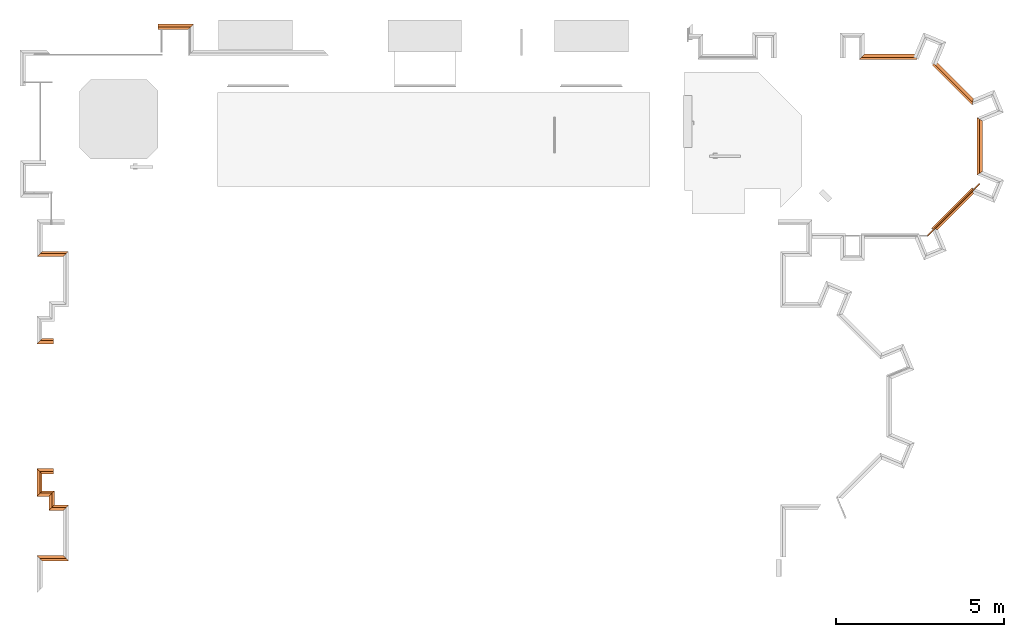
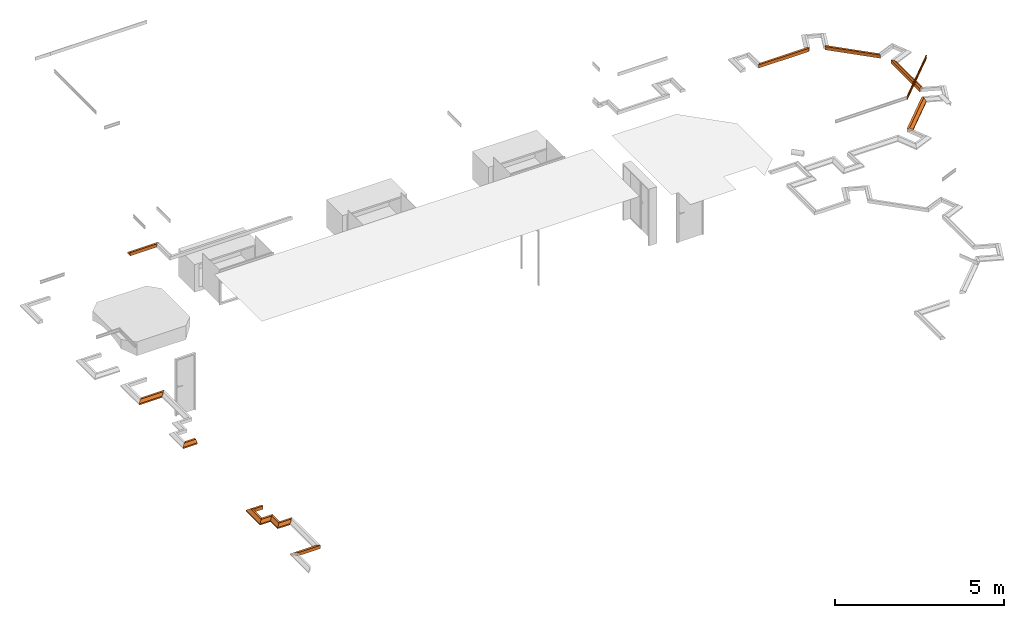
# One storey, part 7 of 9: 14 proxies.
"""IFC2X3 building model written with IfcOpenShell, lengths in metres."""

from ifc_helpers import new_model, entity, si_unit, converted_unit, derived_unit, direction, frame, origin, place, context, subcontext, project, spatial, faceted_brep, type_object, element, save


model = new_model("IFC2X3")

# Units and contexts
model_context = context("Model", 3, precision=1e-05, world=origin(), true_north=direction((6.12303176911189e-17, 1.0)))
plan_context = context("Plan", 3, precision=1e-05, world=origin(), true_north=direction((6.12303176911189e-17, 1.0)))
body_context = subcontext(model_context, "Body", "Model", "MODEL_VIEW")
ifc_project = project(units=[si_unit("LENGTHUNIT", "METRE"), si_unit("AREAUNIT", "SQUARE_METRE"), si_unit("VOLUMEUNIT", "CUBIC_METRE"), converted_unit("PLANEANGLEUNIT", "DEGREE", entity("IfcRatioMeasure", 0.0174532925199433), si_unit("PLANEANGLEUNIT", "RADIAN"), dimensions=[0, 0, 0, 0, 0, 0, 0]), si_unit("MASSUNIT", "GRAM", prefix="KILO"), derived_unit("MASSDENSITYUNIT", [(si_unit("MASSUNIT", "GRAM", prefix="KILO"), 1), (si_unit("LENGTHUNIT", "METRE"), -3)]), derived_unit("MOMENTOFINERTIAUNIT", [(si_unit("LENGTHUNIT", "METRE"), 4)]), si_unit("TIMEUNIT", "SECOND"), si_unit("FREQUENCYUNIT", "HERTZ"), si_unit("THERMODYNAMICTEMPERATUREUNIT", "DEGREE_CELSIUS"), derived_unit("THERMALTRANSMITTANCEUNIT", [(si_unit("MASSUNIT", "GRAM", prefix="KILO"), 1), (si_unit("THERMODYNAMICTEMPERATUREUNIT", "KELVIN"), -1), (si_unit("TIMEUNIT", "SECOND"), -3)]), derived_unit("VOLUMETRICFLOWRATEUNIT", [(si_unit("LENGTHUNIT", "METRE"), 3), (si_unit("TIMEUNIT", "SECOND"), -1)]), derived_unit("MASSFLOWRATEUNIT", [(si_unit("MASSUNIT", "GRAM", prefix="KILO"), 1), (si_unit("TIMEUNIT", "SECOND"), -1)]), derived_unit("ROTATIONALFREQUENCYUNIT", [(si_unit("TIMEUNIT", "SECOND"), -1)]), si_unit("ELECTRICCURRENTUNIT", "AMPERE"), si_unit("ELECTRICVOLTAGEUNIT", "VOLT"), si_unit("POWERUNIT", "WATT"), si_unit("FORCEUNIT", "NEWTON", prefix="KILO"), si_unit("ILLUMINANCEUNIT", "LUX"), si_unit("LUMINOUSFLUXUNIT", "LUMEN"), si_unit("LUMINOUSINTENSITYUNIT", "CANDELA"), derived_unit("USERDEFINED", [(si_unit("MASSUNIT", "GRAM", prefix="KILO"), -1), (si_unit("LENGTHUNIT", "METRE"), -2), (si_unit("TIMEUNIT", "SECOND"), 3), (si_unit("LUMINOUSFLUXUNIT", "LUMEN"), 1)]), derived_unit("SOUNDPOWERUNIT", [(si_unit("MASSUNIT", "GRAM", prefix="KILO"), 1), (si_unit("LENGTHUNIT", "METRE"), 2), (si_unit("TIMEUNIT", "SECOND"), -3)]), derived_unit("SOUNDPRESSUREUNIT", [(si_unit("MASSUNIT", "GRAM", prefix="KILO"), 1), (si_unit("LENGTHUNIT", "METRE"), -1), (si_unit("TIMEUNIT", "SECOND"), -2)]), derived_unit("LINEARVELOCITYUNIT", [(si_unit("LENGTHUNIT", "METRE"), 1), (si_unit("TIMEUNIT", "SECOND"), -1)]), si_unit("PRESSUREUNIT", "PASCAL"), derived_unit("USERDEFINED", [(si_unit("LENGTHUNIT", "METRE"), -2), (si_unit("MASSUNIT", "GRAM", prefix="KILO"), 1), (si_unit("TIMEUNIT", "SECOND"), -2)]), derived_unit("LINEARFORCEUNIT", [(si_unit("MASSUNIT", "GRAM", prefix="KILO"), 1), (si_unit("LENGTHUNIT", "METRE"), 1), (si_unit("TIMEUNIT", "SECOND"), -2), (si_unit("LENGTHUNIT", "METRE"), -1)]), derived_unit("PLANARFORCEUNIT", [(si_unit("MASSUNIT", "GRAM", prefix="KILO"), 1), (si_unit("LENGTHUNIT", "METRE"), 1), (si_unit("TIMEUNIT", "SECOND"), -2), (si_unit("LENGTHUNIT", "METRE"), -2)])], contexts=[model_context, plan_context])

# Site, building, storey
site_placement = place(None, frame((-11.0823275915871, 23.8300534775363, 0.0)))
site = spatial("IfcSite", under=ifc_project, at=site_placement, Name="Default", CompositionType="ELEMENT")
building_placement = place(site_placement, origin())
building = spatial("IfcBuilding", under=site, at=building_placement, Name="Englische Kirche", CompositionType="ELEMENT")
storey_placement = place(building_placement, frame((0.0, 0.0, -3.07499999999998)))
storey = spatial("IfcBuildingStorey", under=building, at=storey_placement, Name="Ebene -1 Basement Phase 6", CompositionType="ELEMENT", Elevation=-3.07499999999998)

# Proxies
building_element_proxy_type_1 = type_object("IfcBuildingElementProxyType", Name="Profilierte Wand:plinth", PredefinedType="NOTDEFINED")
proxy_1_placement = place(storey_placement, frame((-1.4367241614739, 9.31104921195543, 2.97999999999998)))
element("IfcBuildingElementProxy", 1, at=proxy_1_placement, inside=storey, type_object=building_element_proxy_type_1, Name="Profilierte Wand:plinth", ObjectType="Profilierte Wand:plinth", context=body_context, shape_type="Brep", body=[
    faceted_brep([(0.942669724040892, 0.16266972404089, 0.12), (0.872897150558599, 0.0928971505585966, 0.12), (0.780000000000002, 0.0, 0.0450000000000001), (0.780000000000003, 0.0, 0.0), (0.942669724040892, 0.16266972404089, 0.0), (0.16266972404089, 0.16266972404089, 0.12), (0.162669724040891, 0.162669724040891, 0.0), (0.0, 0.0, 0.0), (0.0, 0.0, 0.0450000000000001), (0.092897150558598, 0.0928971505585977, 0.12)], [[[0, 1, 2, 3, 4]], [[5, 6, 7, 8, 9]], [[0, 4, 6, 5]], [[4, 3, 7, 6]], [[3, 2, 8, 7]], [[2, 1, 9, 8]], [[1, 0, 5, 9]]]),
])
building_element_proxy_type_2 = type_object("IfcBuildingElementProxyType", Name="Profilierte Wand:plinth", PredefinedType="NOTDEFINED")
proxy_2_placement = place(storey_placement, frame((-1.44172416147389, 6.71181126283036, 2.97999999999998)))
element("IfcBuildingElementProxy", 2, at=proxy_2_placement, inside=storey, type_object=building_element_proxy_type_2, Name="Profilierte Wand:plinth", ObjectType="Profilierte Wand:plinth", context=body_context, shape_type="Brep", body=[
    faceted_brep([(0.162669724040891, 0.162669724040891, 0.12), (0.162669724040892, 0.162669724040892, 0.0), (0.0, 0.0, 0.0), (0.0, 0.0, 0.0450000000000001), (0.092897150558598, 0.0928971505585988, 0.12), (0.494123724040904, 0.16266972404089, 0.12), (0.494123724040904, 0.0928971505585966, 0.12), (0.494123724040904, 0.0, 0.0450000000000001), (0.494123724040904, 0.0, 0.0), (0.494123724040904, 0.16266972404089, 0.0)], [[[0, 1, 2, 3, 4]], [[5, 6, 7, 8, 9]], [[1, 0, 5, 9]], [[2, 1, 9, 8]], [[3, 2, 8, 7]], [[4, 3, 7, 6]], [[0, 4, 6, 5]]]),
])
building_element_proxy_type_3 = type_object("IfcBuildingElementProxyType", Name="Profilierte Wand:plinth", PredefinedType="NOTDEFINED")
proxy_3_placement = place(storey_placement, frame((-1.4367241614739, 0.23448098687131, 2.97999999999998)))
element("IfcBuildingElementProxy", 3, at=proxy_3_placement, inside=storey, type_object=building_element_proxy_type_3, Name="Profilierte Wand:plinth", ObjectType="Profilierte Wand:plinth", context=body_context, shape_type="Brep", body=[
    faceted_brep([(0.16266972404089, 0.0, 0.12), (0.0928971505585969, 0.0697725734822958, 0.119999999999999), (0.0, 0.162669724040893, 0.0449999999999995), (0.0, 0.162669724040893, 0.0), (0.16266972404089, 0.0, 0.0), (0.942669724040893, 0.0, 0.12), (0.942669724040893, 0.0, 0.0), (0.780000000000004, 0.162669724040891, 0.0), (0.780000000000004, 0.162669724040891, 0.0449999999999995), (0.872897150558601, 0.0697725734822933, 0.119999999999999)], [[[0, 1, 2, 3, 4]], [[5, 6, 7, 8, 9]], [[1, 0, 5, 9]], [[2, 1, 9, 8]], [[3, 2, 8, 7]], [[4, 3, 7, 6]], [[0, 4, 6, 5]]]),
])
building_element_proxy_type_4 = type_object("IfcBuildingElementProxyType", Name="Profilierte Wand:plinth", PredefinedType="NOTDEFINED")
proxy_4_placement = place(storey_placement, frame((-1.0817241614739, 1.74181126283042, 2.97999999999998)))
element("IfcBuildingElementProxy", 4, at=proxy_4_placement, inside=storey, type_object=building_element_proxy_type_4, Name="Profilierte Wand:plinth", ObjectType="Profilierte Wand:plinth", context=body_context, shape_type="Brep", body=[
    faceted_brep([(0.587669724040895, 0.162669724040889, 0.12), (0.517897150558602, 0.0928971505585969, 0.119999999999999), (0.425000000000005, 0.0, 0.0449999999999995), (0.425000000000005, 0.0, 0.0), (0.587669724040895, 0.16266972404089, 0.0), (0.16266972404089, 0.162669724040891, 0.12), (0.162669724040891, 0.162669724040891, 0.0), (0.0, 0.0, 0.0), (0.0, 0.0, 0.0449999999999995), (0.0928971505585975, 0.0928971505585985, 0.119999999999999)], [[[0, 1, 2, 3, 4]], [[5, 6, 7, 8, 9]], [[1, 0, 5, 9]], [[2, 1, 9, 8]], [[3, 2, 8, 7]], [[4, 3, 7, 6]], [[0, 4, 6, 5]]]),
])
building_element_proxy_type_5 = type_object("IfcBuildingElementProxyType", Name="Profilierte Wand:plinth", PredefinedType="NOTDEFINED")
proxy_5_placement = place(storey_placement, frame((-1.0817241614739, 1.74181126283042, 2.97999999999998)))
element("IfcBuildingElementProxy", 5, at=proxy_5_placement, inside=storey, type_object=building_element_proxy_type_5, Name="Profilierte Wand:plinth", ObjectType="Profilierte Wand:plinth", context=body_context, shape_type="Brep", body=[
    faceted_brep([(0.162669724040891, 0.16266972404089, 0.12), (0.0928971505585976, 0.0928971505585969, 0.12), (0.0, 0.0, 0.0450000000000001), (0.0, 0.0, 0.0), (0.162669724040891, 0.16266972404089, 0.0), (0.162669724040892, 0.58666972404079, 0.12), (0.162669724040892, 0.58666972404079, 0.0), (0.0, 0.423999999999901, 0.0), (0.0, 0.423999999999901, 0.0450000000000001), (0.0928971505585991, 0.516897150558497, 0.12)], [[[0, 1, 2, 3, 4]], [[5, 6, 7, 8, 9]], [[1, 0, 5, 9]], [[2, 1, 9, 8]], [[3, 2, 8, 7]], [[4, 3, 7, 6]], [[0, 4, 6, 5]]]),
])
building_element_proxy_type_6 = type_object("IfcBuildingElementProxyType", Name="Profilierte Wand:plinth", PredefinedType="NOTDEFINED")
proxy_6_placement = place(storey_placement, frame((-1.4417241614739, 2.16581126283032, 2.97999999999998)))
element("IfcBuildingElementProxy", 6, at=proxy_6_placement, inside=storey, type_object=building_element_proxy_type_6, Name="Profilierte Wand:plinth", ObjectType="Profilierte Wand:plinth", context=body_context, shape_type="Brep", body=[
    faceted_brep([(0.522669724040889, 0.16266972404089, 0.12), (0.452897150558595, 0.0928971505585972, 0.12), (0.359999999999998, 0.0, 0.0450000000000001), (0.359999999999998, 0.0, 0.0), (0.522669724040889, 0.16266972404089, 0.0), (0.16266972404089, 0.162669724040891, 0.12), (0.16266972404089, 0.162669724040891, 0.0), (0.0, 0.0, 0.0), (0.0, 0.0, 0.0450000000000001), (0.0928971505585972, 0.0928971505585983, 0.12)], [[[0, 1, 2, 3, 4]], [[5, 6, 7, 8, 9]], [[1, 0, 5, 9]], [[2, 1, 9, 8]], [[3, 2, 8, 7]], [[4, 3, 7, 6]], [[0, 4, 6, 5]]]),
])
building_element_proxy_type_7 = type_object("IfcBuildingElementProxyType", Name="Profilierte Wand:plinth brick header", PredefinedType="NOTDEFINED")
proxy_7_placement = place(storey_placement, frame((26.6062268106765, 11.7491854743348, 2.97999999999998)))
element("IfcBuildingElementProxy", 7, at=proxy_7_placement, inside=storey, type_object=building_element_proxy_type_7, Name="Profilierte Wand:plinth brick header", ObjectType="Profilierte Wand:plinth brick header", context=body_context, shape_type="Brep", body=[
    faceted_brep([(0.0, 0.0, 0.12), (0.0, 0.0, 0.0), (0.16266972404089, 0.108692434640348, 0.0), (0.162669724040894, 0.10869243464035, 0.0450000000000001), (0.0697725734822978, 0.0466205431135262, 0.12), (0.0, 1.71117236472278, 0.12), (0.0697725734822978, 1.66455182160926, 0.12), (0.162669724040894, 1.60247993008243, 0.0450000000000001), (0.162669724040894, 1.60247993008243, 0.0), (0.0, 1.71117236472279, 0.0)], [[[0, 1, 2, 3, 4]], [[5, 6, 7, 8, 9]], [[1, 0, 5, 9]], [[2, 1, 9, 8]], [[3, 2, 8, 7]], [[4, 3, 7, 6]], [[0, 4, 6, 5]]]),
])
building_element_proxy_type_8 = type_object("IfcBuildingElementProxyType", Name="Profilierte Wand:plinth brick header", PredefinedType="NOTDEFINED")
proxy_8_placement = place(storey_placement, frame((25.2614451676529, 13.8327152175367, 2.97999999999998)))
element("IfcBuildingElementProxy", 8, at=proxy_8_placement, inside=storey, type_object=building_element_proxy_type_8, Name="Profilierte Wand:plinth brick header", ObjectType="Profilierte Wand:plinth brick header", context=body_context, shape_type="Brep", body=[
    faceted_brep([(1.19595812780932, 0.0, 0.12), (1.19595812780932, 0.0, 0.0), (1.23412583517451, 0.191882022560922, 0.0), (1.23412583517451, 0.191882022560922, 0.0450000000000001), (1.21232908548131, 0.0823023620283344, 0.12), (0.0, 1.19595812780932, 0.12), (0.0493366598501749, 1.24529478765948, 0.12), (0.115024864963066, 1.31098299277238, 0.0450000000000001), (0.115024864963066, 1.31098299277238, 0.0), (0.0, 1.19595812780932, 0.0)], [[[0, 1, 2, 3, 4]], [[5, 6, 7, 8, 9]], [[1, 0, 5, 9]], [[2, 1, 9, 8]], [[3, 2, 8, 7]], [[4, 3, 7, 6]], [[0, 4, 6, 5]]]),
])
building_element_proxy_type_9 = type_object("IfcBuildingElementProxyType", Name="Profilierte Wand:moulding1-Dado brick Stage 2", PredefinedType="NOTDEFINED")
proxy_9_placement = place(storey_placement, frame((25.1192439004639, 9.91654569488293, 4.32499999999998)))
element("IfcBuildingElementProxy", 9, at=proxy_9_placement, inside=storey, type_object=building_element_proxy_type_9, Name="Profilierte Wand:moulding1-Dado brick Stage 2", ObjectType="Profilierte Wand:moulding1-Dado brick Stage 2", context=body_context, shape_type="Brep", body=[
    faceted_brep([(0.0134644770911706, 0.0040256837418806, 0.113282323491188), (0.0124709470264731, 0.00642427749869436, 0.11608322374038), (0.0112243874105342, 0.00943373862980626, 0.11821428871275), (0.00980013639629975, 0.0128721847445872, 0.119546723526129), (0.00828427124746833, 0.0165318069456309, 0.12), (0.0, 0.0365318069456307, 0.12), (0.0, 0.0365318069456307, 0.0), (0.0124264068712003, 0.006531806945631, 0.0), (0.0124264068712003, 0.006531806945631, 0.0249999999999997), (0.00621320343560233, 0.0215318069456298, 0.0249999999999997), (0.00789670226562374, 0.0174674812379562, 0.0900292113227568), (0.00942132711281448, 0.0137867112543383, 0.0902533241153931), (0.0108772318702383, 0.0102718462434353, 0.0913686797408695), (0.0121764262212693, 0.00713531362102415, 0.0933078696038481), (0.0132403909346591, 0.00456667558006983, 0.0959536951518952), (0.0140048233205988, 0.00272117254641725, 0.0991462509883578), (0.0144235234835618, 0.00171034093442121, 0.102692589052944), (0.0144711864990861, 0.0015952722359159, 0.106378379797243), (0.0141449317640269, 0.00238292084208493, 0.109980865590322), (1.5777935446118, 1.56650989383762, 0.0991462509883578), (1.57594804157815, 1.56727432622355, 0.0959536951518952), (1.57337940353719, 1.56833829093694, 0.0933078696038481), (1.57024287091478, 1.56963748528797, 0.0913686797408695), (1.56672800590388, 1.5710933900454, 0.0902533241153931), (1.56304723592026, 1.57261801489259, 0.0900292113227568), (1.55898291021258, 1.57430151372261, 0.0249999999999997), (1.57398291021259, 1.56808831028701, 0.0249999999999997), (1.57398291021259, 1.56808831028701, 0.0), (1.54398291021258, 1.58051471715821, 0.0), (1.54398291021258, 1.58051471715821, 0.12), (1.56398291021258, 1.57223044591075, 0.12), (1.56764253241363, 1.57071458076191, 0.119546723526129), (1.57108097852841, 1.56929032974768, 0.11821428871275), (1.57409043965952, 1.56804377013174, 0.11608322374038), (1.57648903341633, 1.56705024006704, 0.113282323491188), (1.57813179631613, 1.56636978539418, 0.109980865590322), (1.5789194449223, 1.56604353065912, 0.106378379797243), (1.57880437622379, 1.56609119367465, 0.102692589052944), (1.3717990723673, 1.38136985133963, 0.0900292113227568), (1.18055010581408, 1.19012088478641, 0.0900292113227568), (1.07863491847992, 1.08820569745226, 0.0900292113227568), (0.976720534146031, 0.986291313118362, 0.0900292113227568), (0.874806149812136, 0.884376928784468, 0.0900292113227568), (0.772890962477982, 0.782461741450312, 0.0900292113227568), (0.581641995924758, 0.59121277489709, 0.0900292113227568), (0.390393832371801, 0.399964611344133, 0.0900292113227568), (0.199145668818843, 0.208716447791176, 0.0900292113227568), (1.43465090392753, 1.42765812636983, 0.0945660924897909), (1.39540999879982, 1.3959481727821, 0.118974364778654), (0.126430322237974, 0.130974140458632, 0.119769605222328), (1.45683522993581, 1.44467942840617, 0.100894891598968), (1.3945012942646, 1.39628623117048, 0.0907130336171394), (1.44860199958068, 1.45445524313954, 0.0900958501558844), (1.43697187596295, 1.4240164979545, 0.104532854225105), (0.680679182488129, 0.683424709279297, 0.0905133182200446), (0.132952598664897, 0.130018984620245, 0.0922528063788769), (0.311789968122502, 0.308818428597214, 0.0922694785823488), (0.152856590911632, 0.145863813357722, 0.0945660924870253), (0.184228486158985, 0.18601342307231, 0.0907130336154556), (0.559695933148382, 0.551953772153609, 0.114857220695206), (0.677150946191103, 0.673281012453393, 0.117311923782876), (0.493399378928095, 0.490567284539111, 0.117791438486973), (1.4352888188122, 1.42740651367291, 0.114742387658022), (1.45128650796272, 1.44725116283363, 0.117229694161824), (0.450289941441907, 0.439520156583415, 0.111646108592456), (0.472407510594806, 0.460212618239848, 0.109006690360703), (0.627561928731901, 0.616464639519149, 0.111155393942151), (1.48189819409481, 1.47177325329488, 0.0975015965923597), (1.45706439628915, 1.44458665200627, 0.108198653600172), (0.126059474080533, 0.131912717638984, 0.0900958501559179), (1.1199482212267, 1.10814400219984, 0.100104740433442), (0.963695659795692, 0.953176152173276, 0.0980072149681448), (1.1405449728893, 1.13039500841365, 0.0975323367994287), (0.242585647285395, 0.248047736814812, 0.0901298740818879), (1.33246698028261, 1.33792906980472, 0.0901298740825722), (0.301549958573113, 0.294271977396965, 0.0947784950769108), (0.22639706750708, 0.21626349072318, 0.097512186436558), (1.08906428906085, 1.08737800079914, 0.0917463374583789), (0.968310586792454, 0.971261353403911, 0.0904751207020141), (1.09293972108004, 1.09561183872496, 0.0905273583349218), (1.2725126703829, 1.26844242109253, 0.117212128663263), (1.31174659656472, 1.2992943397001, 0.108280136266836), (0.135835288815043, 0.123679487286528, 0.100894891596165), (0.281132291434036, 0.269008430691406, 0.100816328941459), (0.156498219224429, 0.143542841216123, 0.104532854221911), (0.897992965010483, 0.899480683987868, 0.119218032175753), (0.990240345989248, 0.998487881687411, 0.12), (0.798989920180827, 0.807237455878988, 0.12), (1.48234256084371, 1.47159260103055, 0.111674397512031), (0.395635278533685, 0.382863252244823, 0.107022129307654), (0.441266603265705, 0.428312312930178, 0.104508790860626), (0.517534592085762, 0.504664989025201, 0.106425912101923), (1.4495405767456, 1.45408439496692, 0.11976960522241), (1.33342960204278, 1.33758582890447, 0.119718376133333), (0.609437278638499, 0.611120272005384, 0.119263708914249), (0.753690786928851, 0.75451235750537, 0.119050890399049), (0.749729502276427, 0.754443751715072, 0.119790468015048), (1.1974535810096, 1.18489955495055, 0.102059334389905), (1.15215729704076, 1.13920074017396, 0.10456042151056), (1.07565952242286, 1.0629552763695, 0.10265235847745), (1.36469719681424, 1.35394039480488, 0.111664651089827), (0.133263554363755, 0.129228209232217, 0.117229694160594), (0.19953469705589, 0.207782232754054, 0.12), (0.24292888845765, 0.247085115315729, 0.119718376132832), (0.390780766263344, 0.399028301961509, 0.12), (1.1814864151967, 1.18973395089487, 0.12), (1.37273248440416, 1.38098002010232, 0.12), (1.31150628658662, 1.29938242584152, 0.100816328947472), (1.3642512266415, 1.35411764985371, 0.0975121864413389), (0.153108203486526, 0.145225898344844, 0.114742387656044), (0.108922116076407, 0.0981721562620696, 0.11167439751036), (0.135928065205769, 0.123450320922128, 0.108198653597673), (1.13125494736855, 1.1246834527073, 0.115733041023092), (1.00403907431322, 0.995006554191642, 0.113700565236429), (1.14099456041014, 1.13022477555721, 0.111646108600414), (0.485143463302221, 0.486552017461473, 0.119199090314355), (0.108741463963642, 0.0986165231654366, 0.0975015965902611), (0.584835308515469, 0.576602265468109, 0.0955556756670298), (0.4501197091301, 0.439969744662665, 0.0975323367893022), (0.455388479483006, 0.449789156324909, 0.0936363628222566), (1.28689621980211, 1.27874932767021, 0.114519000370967), (1.45049573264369, 1.44756211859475, 0.0922528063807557), (0.184566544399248, 0.185104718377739, 0.118974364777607), (0.825630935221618, 0.831636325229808, 0.0900840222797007), (0.825335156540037, 0.827375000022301, 0.0906566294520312), (0.281220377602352, 0.26876812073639, 0.108280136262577), (0.226574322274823, 0.215817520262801, 0.111664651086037), (1.02792047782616, 1.02107382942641, 0.0944604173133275), (0.906365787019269, 0.903596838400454, 0.092181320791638), (1.27897271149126, 1.26601728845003, 0.10453387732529), (0.301765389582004, 0.293618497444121, 0.114519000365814), (0.312072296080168, 0.308002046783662, 0.11721212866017), (1.28624273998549, 1.2789647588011, 0.0947784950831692), (1.27169628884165, 1.26872474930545, 0.0922694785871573), (0.314497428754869, 0.301542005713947, 0.104533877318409), (1.21724297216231, 1.22021476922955, 0.0904712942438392), (0.360299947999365, 0.363271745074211, 0.0904712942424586), (0.360600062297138, 0.362302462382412, 0.119268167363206), (1.21821225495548, 1.21991465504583, 0.119268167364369), (0.789060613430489, 0.779233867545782, 0.0971476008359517), (0.868263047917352, 0.861304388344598, 0.0945412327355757), (0.801570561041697, 0.791093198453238, 0.112049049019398), (0.719535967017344, 0.711692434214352, 0.114774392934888), (0.720370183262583, 0.713637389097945, 0.0943795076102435), (0.672985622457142, 0.663092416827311, 0.0972246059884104), (0.562757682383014, 0.55220499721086, 0.0980519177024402), (0.867196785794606, 0.859567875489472, 0.114948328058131), (0.917685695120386, 0.907139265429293, 0.111956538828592), (1.02851091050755, 1.01737892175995, 0.11110057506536), (1.15990175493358, 1.15437221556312, 0.0935940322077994), (1.25282476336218, 1.24208939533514, 0.0983048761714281), (0.850365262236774, 0.838303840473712, 0.100667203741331), (1.14558867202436, 1.13288323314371, 0.107342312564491), (0.981271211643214, 0.969130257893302, 0.100858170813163), (0.504223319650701, 0.508926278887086, 0.0902108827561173), (0.482094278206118, 0.481406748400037, 0.0913955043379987), (0.609862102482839, 0.606053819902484, 0.0926578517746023), (0.754218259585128, 0.751914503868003, 0.0919871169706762), (0.595865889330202, 0.595856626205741, 0.0911828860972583), (0.696936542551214, 0.705184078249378, 0.12), (0.426407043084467, 0.419901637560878, 0.115778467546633), (0.338578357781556, 0.3272914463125, 0.110848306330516), (0.742467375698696, 0.730066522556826, 0.108438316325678), (0.447590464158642, 0.435130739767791, 0.101743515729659), (0.611344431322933, 0.598879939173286, 0.108241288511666), (1.07266748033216, 1.07607886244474, 0.119604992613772), (1.09987072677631, 1.09800659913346, 0.118186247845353), (0.974955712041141, 0.970093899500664, 0.116792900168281), (0.828998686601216, 0.825588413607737, 0.11753186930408), (0.98550390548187, 0.984302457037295, 0.118429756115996), (1.25322327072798, 1.24193635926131, 0.110848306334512), (0.965768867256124, 0.953454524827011, 0.108688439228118), (0.856318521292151, 0.843612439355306, 0.107339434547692), (0.937069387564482, 0.924186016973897, 0.10368000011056), (0.796735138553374, 0.783779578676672, 0.104536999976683), (0.338425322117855, 0.327689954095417, 0.0983048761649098), (0.626811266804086, 0.614868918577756, 0.100397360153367), (0.736579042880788, 0.724118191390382, 0.101747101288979), (0.656338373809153, 0.643380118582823, 0.105396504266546), (0.492834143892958, 0.50108167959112, 0.12), (0.594887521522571, 0.603135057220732, 0.12), (1.03422234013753, 1.02128719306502, 0.105804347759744), (0.559220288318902, 0.546396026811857, 0.103270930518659)], [[[0, 1, 2, 3, 4, 5, 6, 7, 8, 9, 10, 11, 12, 13, 14, 15, 16, 17, 18]], [[19, 20, 21, 22, 23, 24, 25, 26, 27, 28, 29, 30, 31, 32, 33, 34, 35, 36, 37]], [[6, 5, 29, 28]], [[7, 6, 28, 27]], [[8, 7, 27, 26]], [[9, 8, 26, 25]], [[10, 9, 25, 24, 38, 39, 40, 41, 42, 43, 44, 45, 46]], [[21, 20, 47]], [[32, 31, 48]], [[4, 3, 49]], [[50, 19, 37]], [[51, 23, 22]], [[24, 23, 52]], [[36, 53, 37]], [[54, 44, 43]], [[55, 56, 57]], [[12, 11, 58]], [[59, 60, 61]], [[62, 33, 63]], [[64, 65, 66]], [[67, 47, 20]], [[68, 53, 36]], [[10, 46, 69]], [[24, 52, 38]], [[70, 71, 72]], [[73, 58, 69]], [[74, 39, 38]], [[75, 76, 57]], [[77, 78, 79]], [[63, 80, 62]], [[57, 13, 55]], [[81, 53, 68]], [[82, 83, 84]], [[85, 86, 87]], [[88, 35, 34]], [[89, 90, 91]], [[16, 82, 84]], [[48, 92, 93]], [[94, 95, 96]], [[97, 98, 99]], [[88, 62, 100]], [[2, 1, 101]], [[102, 103, 104]], [[105, 93, 106]], [[20, 19, 67]], [[107, 108, 50]], [[109, 0, 110]], [[84, 17, 16]], [[111, 18, 17]], [[112, 113, 114]], [[61, 94, 115]], [[57, 76, 116]], [[0, 18, 110]], [[117, 118, 119]], [[120, 100, 62]], [[121, 22, 21]], [[1, 0, 109]], [[30, 106, 92]], [[4, 49, 102]], [[122, 3, 2]], [[123, 78, 124]], [[125, 126, 111]], [[127, 128, 77]], [[15, 14, 116]], [[34, 33, 62]], [[81, 129, 53]], [[17, 84, 111]], [[109, 130, 131]], [[37, 53, 50]], [[47, 132, 133]], [[14, 13, 57]], [[83, 134, 84]], [[47, 121, 21]], [[74, 38, 52]], [[109, 101, 1]], [[103, 102, 49]], [[51, 133, 135]], [[52, 23, 51]], [[11, 69, 58]], [[73, 45, 136]], [[122, 131, 137]], [[49, 3, 122]], [[31, 92, 48]], [[93, 105, 138]], [[71, 139, 140]], [[118, 75, 119]], [[66, 141, 142]], [[114, 120, 112]], [[36, 35, 68]], [[107, 50, 53]], [[16, 15, 82]], [[125, 111, 84]], [[33, 32, 63]], [[120, 62, 80]], [[130, 109, 126]], [[101, 131, 122]], [[132, 47, 108]], [[121, 133, 51]], [[13, 12, 55]], [[75, 57, 56]], [[88, 68, 35]], [[68, 100, 81]], [[107, 53, 129]], [[67, 50, 108]], [[116, 82, 15]], [[82, 76, 83]], [[125, 84, 134]], [[110, 111, 126]], [[32, 48, 63]], [[80, 63, 48]], [[131, 101, 109]], [[122, 2, 101]], [[133, 121, 47]], [[51, 22, 121]], [[12, 58, 55]], [[56, 55, 58]], [[56, 58, 136]], [[143, 139, 144]], [[143, 140, 139]], [[117, 145, 118]], [[80, 48, 138]], [[146, 141, 147]], [[146, 142, 141]], [[113, 148, 114]], [[133, 77, 135]], [[123, 43, 42]], [[133, 132, 149]], [[135, 79, 39]], [[78, 77, 128]], [[149, 77, 133]], [[127, 72, 71]], [[70, 150, 97]], [[151, 139, 71]], [[129, 81, 152]], [[151, 71, 153]], [[45, 44, 154]], [[119, 155, 156]], [[140, 157, 128]], [[154, 54, 158]], [[158, 156, 155]], [[131, 61, 137]], [[96, 87, 159]], [[131, 130, 160]], [[137, 115, 104]], [[94, 61, 60]], [[160, 61, 131]], [[59, 64, 66]], [[65, 161, 89]], [[162, 141, 66]], [[134, 83, 163]], [[162, 66, 164]], [[105, 86, 165]], [[112, 166, 167]], [[142, 168, 60]], [[165, 85, 169]], [[169, 167, 166]], [[112, 120, 80]], [[170, 120, 114]], [[166, 80, 138]], [[112, 167, 113]], [[146, 113, 167]], [[147, 171, 148]], [[172, 141, 162]], [[173, 174, 151]], [[161, 130, 126]], [[160, 64, 59]], [[150, 132, 108]], [[149, 72, 127]], [[119, 75, 56]], [[175, 75, 118]], [[155, 56, 136]], [[119, 156, 117]], [[143, 117, 156]], [[144, 176, 145]], [[177, 139, 151]], [[178, 174, 162]], [[157, 124, 128]], [[39, 79, 40]], [[168, 95, 60]], [[104, 115, 179]], [[80, 166, 112]], [[166, 138, 165]], [[105, 165, 138]], [[85, 165, 86]], [[64, 160, 130]], [[61, 160, 59]], [[72, 149, 132]], [[77, 149, 127]], [[56, 155, 119]], [[155, 136, 154]], [[45, 154, 136]], [[54, 154, 44]], [[157, 143, 156]], [[143, 157, 140]], [[158, 157, 156]], [[124, 157, 54]], [[128, 127, 140]], [[71, 140, 127]], [[168, 146, 167]], [[146, 168, 142]], [[169, 168, 167]], [[95, 168, 85]], [[60, 59, 142]], [[66, 142, 59]], [[123, 54, 43]], [[128, 124, 78]], [[96, 85, 87]], [[60, 95, 94]], [[78, 123, 42]], [[41, 40, 78, 42]], [[54, 123, 124]], [[94, 96, 159]], [[180, 179, 94, 159]], [[85, 96, 95]], [[100, 170, 81]], [[81, 170, 152]], [[148, 152, 114]], [[181, 173, 99]], [[97, 107, 129]], [[150, 108, 107]], [[76, 175, 83]], [[83, 175, 163]], [[145, 163, 118]], [[182, 178, 91]], [[89, 125, 134]], [[161, 126, 125]], [[173, 153, 99]], [[177, 151, 174]], [[99, 98, 181]], [[173, 181, 172]], [[178, 164, 91]], [[172, 162, 174]], [[91, 90, 182]], [[178, 182, 177]], [[152, 171, 181]], [[172, 181, 171]], [[163, 176, 182]], [[177, 182, 176]], [[62, 88, 34]], [[68, 88, 100]], [[111, 110, 18]], [[109, 110, 126]], [[50, 67, 19]], [[47, 67, 108]], [[57, 116, 14]], [[82, 116, 76]], [[98, 129, 152]], [[70, 97, 99]], [[70, 99, 153]], [[70, 72, 150]], [[90, 134, 163]], [[65, 89, 91]], [[65, 91, 164]], [[65, 64, 161]], [[129, 98, 97]], [[181, 98, 152]], [[134, 90, 89]], [[182, 90, 163]], [[151, 153, 173]], [[70, 153, 71]], [[162, 164, 178]], [[65, 164, 66]], [[120, 170, 100]], [[152, 170, 114]], [[150, 107, 97]], [[132, 150, 72]], [[75, 175, 76]], [[163, 175, 118]], [[161, 125, 89]], [[130, 161, 64]], [[74, 52, 51]], [[51, 135, 74]], [[39, 74, 135]], [[10, 69, 11]], [[73, 69, 46]], [[45, 73, 46]], [[136, 58, 73]], [[103, 49, 122]], [[122, 137, 103]], [[104, 103, 137]], [[30, 92, 31]], [[93, 92, 106]], [[138, 48, 93]], [[147, 148, 113]], [[152, 148, 171]], [[146, 147, 113]], [[147, 141, 172]], [[144, 145, 117]], [[163, 145, 176]], [[143, 144, 117]], [[144, 139, 177]], [[165, 169, 166]], [[168, 169, 85]], [[154, 158, 155]], [[157, 158, 54]], [[178, 177, 174]], [[177, 176, 144]], [[173, 172, 174]], [[172, 171, 147]], [[40, 79, 78]], [[135, 77, 79]], [[179, 115, 94]], [[137, 61, 115]], [[5, 4, 102, 104, 179, 180, 159, 87, 86, 105, 106, 30, 29]]]),
])
building_element_proxy_type_10 = type_object("IfcBuildingElementProxyType", Name="Profilierte Wand:plinth", PredefinedType="NOTDEFINED")
proxy_10_placement = place(storey_placement, frame((2.17045737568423, 16.093718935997, 2.97999999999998)))
element("IfcBuildingElementProxy", 10, at=proxy_10_placement, inside=storey, type_object=building_element_proxy_type_10, Name="Profilierte Wand:plinth", ObjectType="Profilierte Wand:plinth", context=body_context, shape_type="Brep", body=[
    faceted_brep([(0.0, 0.0, 0.12), (0.0, 0.0697725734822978, 0.12), (0.0, 0.162669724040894, 0.0450000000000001), (0.0, 0.162669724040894, 0.0), (0.0, 0.0, 0.0), (0.905000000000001, 0.0, 0.12), (0.905000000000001, 0.0, 0.0), (1.06766972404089, 0.16266972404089, 0.0), (1.06766972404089, 0.16266972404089, 0.0450000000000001), (0.974772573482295, 0.0697725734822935, 0.12)], [[[0, 1, 2, 3, 4]], [[5, 6, 7, 8, 9]], [[1, 0, 5, 9]], [[2, 1, 9, 8]], [[3, 2, 8, 7]], [[4, 3, 7, 6]], [[0, 4, 6, 5]]]),
])
building_element_proxy_type_11 = type_object("IfcBuildingElementProxyType", Name="Profilierte Wand:plinth", PredefinedType="NOTDEFINED")
proxy_11_placement = place(storey_placement, frame((-1.4417241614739, 2.16581126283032, 2.97999999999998)))
element("IfcBuildingElementProxy", 11, at=proxy_11_placement, inside=storey, type_object=building_element_proxy_type_11, Name="Profilierte Wand:plinth", ObjectType="Profilierte Wand:plinth", context=body_context, shape_type="Brep", body=[
    faceted_brep([(0.16266972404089, 0.162669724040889, 0.12), (0.0928971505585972, 0.0928971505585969, 0.119999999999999), (0.0, 0.0, 0.0449999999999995), (0.0, 0.0, 0.0), (0.16266972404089, 0.16266972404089, 0.0), (0.162669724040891, 0.66766972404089, 0.12), (0.162669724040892, 0.667669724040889, 0.0), (0.0, 0.83033944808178, 0.0), (0.0, 0.83033944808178, 0.0449999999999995), (0.0928971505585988, 0.737442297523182, 0.119999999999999)], [[[0, 1, 2, 3, 4]], [[5, 6, 7, 8, 9]], [[1, 0, 5, 9]], [[2, 1, 9, 8]], [[3, 2, 8, 7]], [[4, 3, 7, 6]], [[0, 4, 6, 5]]]),
])
building_element_proxy_type_12 = type_object("IfcBuildingElementProxyType", Name="Profilierte Wand:plinth", PredefinedType="NOTDEFINED")
proxy_12_placement = place(storey_placement, frame((-1.44172416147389, 2.83348098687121, 2.97999999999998)))
element("IfcBuildingElementProxy", 12, at=proxy_12_placement, inside=storey, type_object=building_element_proxy_type_12, Name="Profilierte Wand:plinth", ObjectType="Profilierte Wand:plinth", context=body_context, shape_type="Brep", body=[
    faceted_brep([(0.16266972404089, 0.0, 0.12), (0.0928971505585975, 0.0697725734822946, 0.12), (0.0, 0.162669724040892, 0.0450000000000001), (0.0, 0.162669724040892, 0.0), (0.16266972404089, 0.0, 0.0), (0.494123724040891, 0.0, 0.12), (0.494123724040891, 0.0, 0.0), (0.494123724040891, 0.162669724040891, 0.0), (0.494123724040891, 0.16266972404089, 0.0450000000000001), (0.494123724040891, 0.0697725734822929, 0.12)], [[[0, 1, 2, 3, 4]], [[5, 6, 7, 8, 9]], [[1, 0, 5, 9]], [[2, 1, 9, 8]], [[3, 2, 8, 7]], [[4, 3, 7, 6]], [[0, 4, 6, 5]]]),
])
building_element_proxy_type_13 = type_object("IfcBuildingElementProxyType", Name="Profilierte Wand:plinth brick header", PredefinedType="NOTDEFINED")
proxy_13_placement = place(storey_placement, frame((23.0784547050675, 15.1877189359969, 2.97999999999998)))
element("IfcBuildingElementProxy", 13, at=proxy_13_placement, inside=storey, type_object=building_element_proxy_type_13, Name="Profilierte Wand:plinth brick header", ObjectType="Profilierte Wand:plinth brick header", context=body_context, shape_type="Brep", body=[
    faceted_brep([(1.73691168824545, 0.0, 0.12), (1.73691168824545, 0.0, 0.0), (1.73691168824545, 0.162669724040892, 0.0), (1.73691168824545, 0.162669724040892, 0.0450000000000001), (1.73691168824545, 0.0697725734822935, 0.12), (0.0, 0.0, 0.12), (0.0697725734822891, 0.0697725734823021, 0.12), (0.16266972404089, 0.162669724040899, 0.0450000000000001), (0.16266972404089, 0.162669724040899, 0.0), (0.0, 0.0, 0.0)], [[[0, 1, 2, 3, 4]], [[5, 6, 7, 8, 9]], [[1, 0, 5, 9]], [[2, 1, 9, 8]], [[3, 2, 8, 7]], [[4, 3, 7, 6]], [[0, 4, 6, 5]]]),
])
building_element_proxy_type_14 = type_object("IfcBuildingElementProxyType", Name="Profilierte Wand:plinth brick header", PredefinedType="NOTDEFINED")
proxy_14_placement = place(storey_placement, frame((25.2409614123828, 10.1172374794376, 2.97999999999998)))
element("IfcBuildingElementProxy", 14, at=proxy_14_placement, inside=storey, type_object=building_element_proxy_type_14, Name="Profilierte Wand:plinth brick header", ObjectType="Profilierte Wand:plinth brick header", context=body_context, shape_type="Brep", body=[
    faceted_brep([(1.21993771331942, 1.25810542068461, 0.12), (1.23630867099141, 1.17580305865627, 0.12), (1.25810542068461, 1.06622339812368, 0.0450000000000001), (1.25810542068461, 1.06622339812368, 0.0), (1.21993771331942, 1.25810542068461, 0.0), (0.0, 0.0381677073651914, 0.12), (0.0, 0.0381677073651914, 0.0), (0.191882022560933, 0.0, 0.0), (0.191882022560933, 0.0, 0.0450000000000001), (0.0823023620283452, 0.0217967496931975, 0.12)], [[[0, 1, 2, 3, 4]], [[5, 6, 7, 8, 9]], [[1, 0, 5, 9]], [[2, 1, 9, 8]], [[3, 2, 8, 7]], [[4, 3, 7, 6]], [[0, 4, 6, 5]]]),
])

save(model, "model.ifc")
